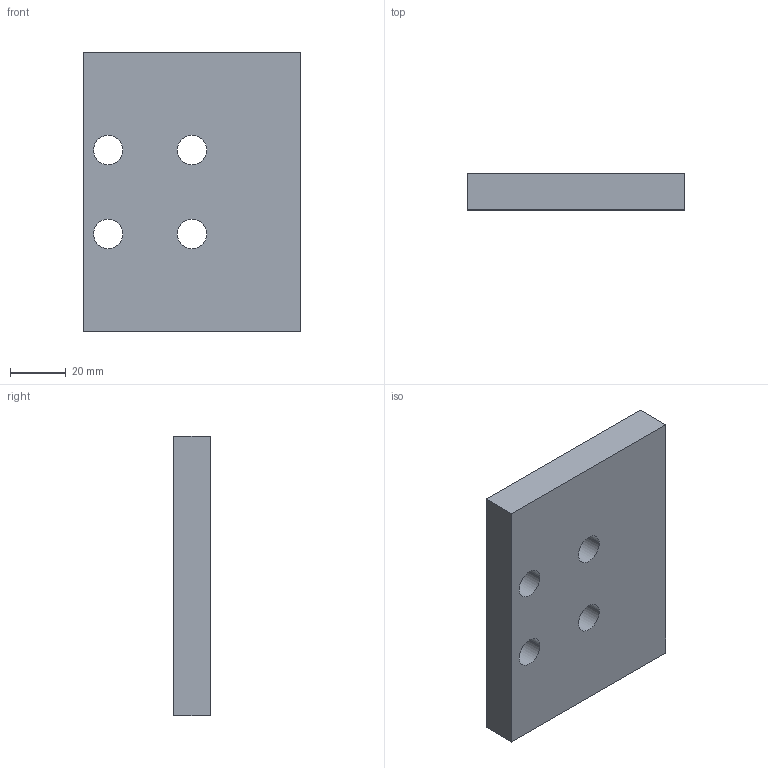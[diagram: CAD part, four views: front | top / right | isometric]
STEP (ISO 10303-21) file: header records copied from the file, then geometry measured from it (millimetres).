
FILE_DESCRIPTION( ( '' ), '1' );
FILE_NAME( 'E:/04 嬴檜蠱滌/0404 ZIMMER/040414 ZIMMER CAD download/Adapt plate/PLK for LKP, LKPS/PLK55-13.stp', '2020-04-16T10:20:09', ( '' ), ( '' ), ' ', ' ', ' ' );
FILE_SCHEMA( ( 'automotive_design' ) );
Length unit declared in the file: millimetre
Products named in the file (1): 1
Bounding box: 78 x 13 x 100 mm (x, y, z)
Volume: 96897.3 mm3; surface area: 21250.6 mm2
Topology: 1 solids, 1 shells, 14 faces, 36 edges, 24 vertices
Faces by surface type: cylinder 8, plane 6
Entity records: 888 total; most frequent: DIRECTION 82, STYLED_ITEM 75, PRESENTATION_STYLE_ASSIGNMENT 75, CARTESIAN_POINT 75, COLOUR_RGB 75, ORIENTED_EDGE 72, EDGE_CURVE 36, CURVE_STYLE 36
